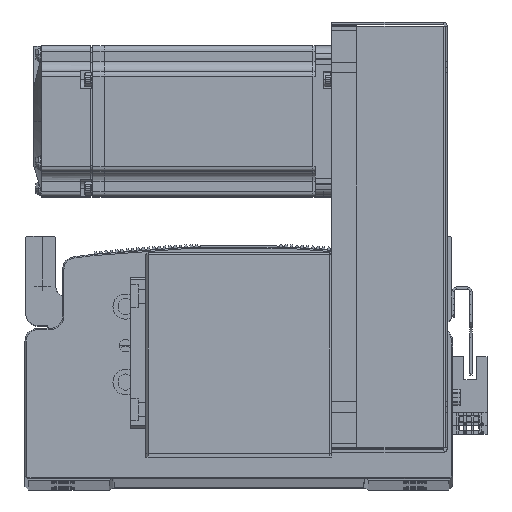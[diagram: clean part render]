
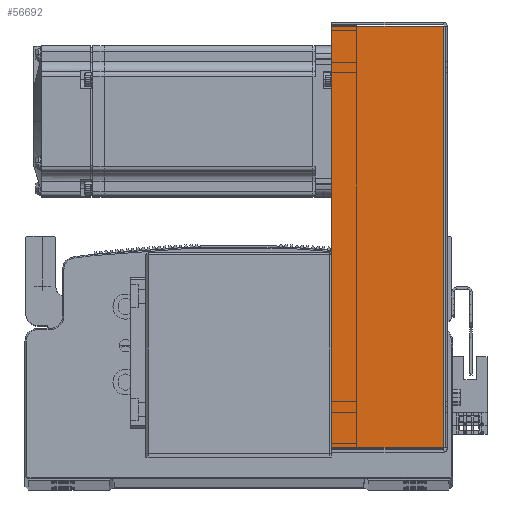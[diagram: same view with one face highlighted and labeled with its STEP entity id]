
A CAD part, top view. The second image highlights one B-rep face of the part: STEP entity #56692.
In plain terms, the highlighted planar face has unit normal (0, 0, 1).
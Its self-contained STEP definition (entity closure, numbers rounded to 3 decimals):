
#3677 = EDGE_CURVE ( 'NONE', #31724, #31859, #13395, .T. ) ;
#3787 = EDGE_CURVE ( 'NONE', #31745, #31724, #13517, .T. ) ;
#3791 = EDGE_CURVE ( 'NONE', #31745, #31748, #13516, .T. ) ;
#3801 = EDGE_CURVE ( 'NONE', #31748, #31859, #13572, .T. ) ;
#13395 = LINE ( 'NONE', #75425, #13420 ) ;
#13420 = VECTOR ( 'NONE', #75456, 1000. ) ;
#13516 = LINE ( 'NONE', #76277, #13595 ) ;
#13517 = LINE ( 'NONE', #76119, #13557 ) ;
#13557 = VECTOR ( 'NONE', #76291, 1000. ) ;
#13572 = LINE ( 'NONE', #76255, #13600 ) ;
#13595 = VECTOR ( 'NONE', #76251, 1000. ) ;
#13600 = VECTOR ( 'NONE', #76238, 1000. ) ;
#17474 = AXIS2_PLACEMENT_3D ( 'NONE', #78290, #78271, #78257 ) ;
#18708 = ORIENTED_EDGE ( 'NONE', *, *, #3677, .F. ) ;
#18793 = ORIENTED_EDGE ( 'NONE', *, *, #3801, .T. ) ;
#18882 = ORIENTED_EDGE ( 'NONE', *, *, #3787, .F. ) ;
#18897 = ORIENTED_EDGE ( 'NONE', *, *, #3791, .T. ) ;
#24338 = EDGE_LOOP ( 'NONE', ( #18882, #18897, #18793, #18708 ) ) ;
#31724 = VERTEX_POINT ( 'NONE', #35350 ) ;
#31745 = VERTEX_POINT ( 'NONE', #35459 ) ;
#31748 = VERTEX_POINT ( 'NONE', #35374 ) ;
#31859 = VERTEX_POINT ( 'NONE', #35424 ) ;
#35350 = CARTESIAN_POINT ( 'NONE',  ( -83.793, 0.737, 40.5 ) ) ;
#35374 = CARTESIAN_POINT ( 'NONE',  ( 83.793, 45., 40.5 ) ) ;
#35424 = CARTESIAN_POINT ( 'NONE',  ( -83.793, 45., 40.5 ) ) ;
#35459 = CARTESIAN_POINT ( 'NONE',  ( 83.793, 0.737, 40.5 ) ) ;
#56692 = ADVANCED_FACE ( 'NONE', ( #86527 ), #78316, .F. ) ;
#75425 = CARTESIAN_POINT ( 'NONE',  ( -83.793, 0., 40.5 ) ) ;
#75456 = DIRECTION ( 'NONE',  ( 0., 1., 0. ) ) ;
#76119 = CARTESIAN_POINT ( 'NONE',  ( 0., 0.737, 40.5 ) ) ;
#76238 = DIRECTION ( 'NONE',  ( -1., 0., 0. ) ) ;
#76251 = DIRECTION ( 'NONE',  ( 0., 1., 0. ) ) ;
#76255 = CARTESIAN_POINT ( 'NONE',  ( -84.5, 45., 40.5 ) ) ;
#76277 = CARTESIAN_POINT ( 'NONE',  ( 83.793, 0., 40.5 ) ) ;
#76291 = DIRECTION ( 'NONE',  ( -1., 0., 0. ) ) ;
#78257 = DIRECTION ( 'NONE',  ( -1., 0., 0. ) ) ;
#78271 = DIRECTION ( 'NONE',  ( 0., 0., -1. ) ) ;
#78290 = CARTESIAN_POINT ( 'NONE',  ( 0., 0., 40.5 ) ) ;
#78316 = PLANE ( 'NONE',  #17474 ) ;
#86527 = FACE_OUTER_BOUND ( 'NONE', #24338, .T. ) ;
